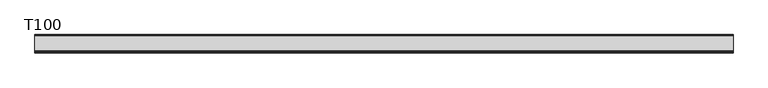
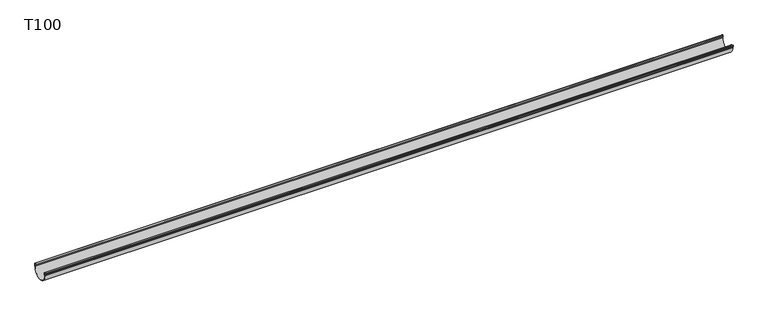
"""IFC4 building model written with IfcOpenShell, lengths in millimetres: proxy geometry, GROVIK_Gutter_Straight : T100."""

from ifc_helpers import new_model, si_unit, point, frame, frame_2d, origin, place, context, project, spatial, polyline, circle_curve, trimmed, segment, composite_curve, outline, extrude, source, transform, mapped, element, save


def t100_31191efa(model_context):
    return source(origin(), model_context, "Body", "SweptSolid", [
        extrude(outline(composite_curve([segment(polyline([(95.6785725, 12.9222473), (94.8220658, 3.1323306), (104.7816977, 1.3761787), (105.2998033, 7.2981526), (98.3413035, 6.0711814), (98.1850202, 6.9575084), (105.0151773, 8.1618494)]), True, "CONTINUOUS"), segment(trimmed(circle_curve(frame_2d((105.1888255, 7.1770416)), 1.0), [point((105.0151773, 8.1618494))], [point((106.1850202, 7.0898858))], False, "CARTESIAN"), True, "CONTINUOUS"), segment(polyline([(106.1850202, 7.0898858), (105.6885136, 1.4147892)]), True, "CONTINUOUS"), segment(trimmed(circle_curve(frame_2d((104.6923189, 1.501945)), 1.0), [point((105.6885136, 1.4147892))], [point((104.6051631, 0.5057503))], False, "CARTESIAN"), True, "CONTINUOUS"), segment(polyline([(104.6051631, 0.5057503), (94.7570856, 2.242232)]), True, "CONTINUOUS"), segment(trimmed(circle_curve(frame_2d((94.9307338, 3.2270397)), 1.0), [point((94.7570856, 2.242232))], [point((93.9345391, 3.3141955))], False, "CARTESIAN"), True, "CONTINUOUS"), segment(polyline([(93.9345391, 3.3141955), (94.7746841, 12.9170968)]), True, "CONTINUOUS"), segment(trimmed(circle_curve(frame_2d((95.683723, 12.9170968)), 0.909039), [point((94.7746841, 12.9170968))], [point((95.683723, 13.8261357))], False, "CARTESIAN"), True, "CONTINUOUS"), segment(polyline([(95.683723, 13.8261357), (100.9, 14.2825008), (100.9, 16.3578028)]), True, "CONTINUOUS"), segment(trimmed(circle_curve(frame_2d((50.9, 16.3578028)), 50.0), [point((100.9, 16.3578028))], [point((0.9, 16.3578028))], True, "CARTESIAN"), True, "CONTINUOUS"), segment(polyline([(0.9, 16.3578028), (0.9, 1.3578028), (5.6494755, 5.343086), (6.2279844, 4.6536459), (0.8213938, 0.1169778)]), True, "CONTINUOUS"), segment(trimmed(circle_curve(frame_2d((0.5, 0.5000001)), 0.5), [point((0.8213938, 0.1169778))], [point((0.0, 0.5000001))], False, "CARTESIAN"), True, "CONTINUOUS"), segment(polyline([(0.0, 0.5000001), (0.0, 16.3578028)]), True, "CONTINUOUS"), segment(trimmed(circle_curve(frame_2d((50.9, 16.3578028)), 50.9), [point((0.0, 16.3578028))], [point((101.8, 16.3578028))], False, "CARTESIAN"), True, "CONTINUOUS"), segment(polyline([(101.8, 16.3578028), (101.8, 14.374134)]), True, "CONTINUOUS"), segment(trimmed(circle_curve(frame_2d((100.8, 14.374134)), 1.0), [point((101.8, 14.374134))], [point((100.8871557, 13.3779393))], False, "CARTESIAN"), True, "CONTINUOUS"), segment(polyline([(100.8871557, 13.3779393), (95.6785725, 12.9222473)]), True, "CONTINUOUS")], self_intersect=False)), frame((45.0, 0.0, 0.0), z_axis=(0.9999995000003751, 0.0, 0.0009999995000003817), x_axis=(0.0, -1.0, 0.0)), (0.0, 0.0, 1.0), 4005.7387882),
    ])


if __name__ == "__main__":
    model = new_model("IFC4")
    model_context = context("Model", 3, world=origin())
    ifc_project = project(units=[si_unit("LENGTHUNIT", "METRE", prefix="MILLI")], contexts=[model_context])
    site = spatial("IfcSite", under=ifc_project)
    building = spatial("IfcBuilding", under=site)
    placement = place(None, origin())
    t100_shape = t100_31191efa(model_context)
    element("IfcBuildingElementProxy", 1, Name="GROVIK_Gutter_Straight : T100", ObjectType="GROVIK_Gutter_Straight : T100", at=placement, inside=building, context=model_context, shape_type="MappedRepresentation", body=[
        mapped(t100_shape, transform((0.0, 0.0, 0.0), x_axis=(1.0, 0.0, 0.0), y_axis=(0.0, 1.0, 0.0), z_axis=(0.0, 0.0, 1.0))),
    ])
    save(model, "model.ifc")
